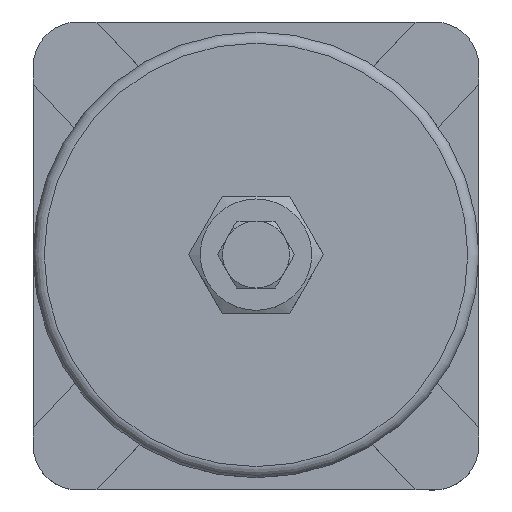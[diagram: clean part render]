
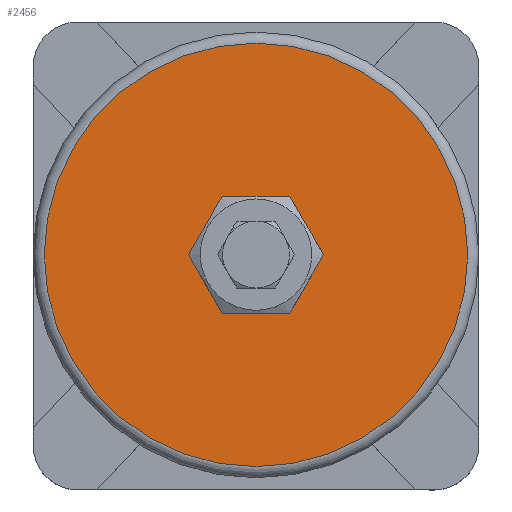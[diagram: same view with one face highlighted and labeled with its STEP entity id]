
A CAD part, top view. The second image highlights one B-rep face of the part: STEP entity #2456.
In plain terms, the highlighted planar face has unit normal (0, 0, 1).
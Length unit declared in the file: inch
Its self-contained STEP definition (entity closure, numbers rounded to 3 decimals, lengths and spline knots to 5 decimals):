
#123=FACE_BOUND('',#449,.T.);
#172=CIRCLE('',#2631,2.3757);
#173=CIRCLE('',#2633,0.38281);
#292=FACE_OUTER_BOUND('',#448,.T.);
#448=EDGE_LOOP('',(#1640));
#449=EDGE_LOOP('',(#1641));
#999=VERTEX_POINT('',#3558);
#1000=VERTEX_POINT('',#3561);
#1248=EDGE_CURVE('',#999,#999,#172,.T.);
#1249=EDGE_CURVE('',#1000,#1000,#173,.T.);
#1640=ORIENTED_EDGE('',*,*,#1248,.T.);
#1641=ORIENTED_EDGE('',*,*,#1249,.F.);
#2208=PLANE('',#2632);
#2456=ADVANCED_FACE('',(#292,#123),#2208,.T.);
#2631=AXIS2_PLACEMENT_3D('',#3559,#2925,#2926);
#2632=AXIS2_PLACEMENT_3D('',#3560,#2927,#2928);
#2633=AXIS2_PLACEMENT_3D('',#3562,#2929,#2930);
#2925=DIRECTION('center_axis',(0.,0.,
1.));
#2926=DIRECTION('ref_axis',(1.,0.,0.));
#2927=DIRECTION('center_axis',(0.,0.,
1.));
#2928=DIRECTION('ref_axis',(1.,0.,0.));
#2929=DIRECTION('center_axis',(0.,0.,
1.));
#2930=DIRECTION('ref_axis',(1.,0.,0.));
#3558=CARTESIAN_POINT('',(2.3757,0.,7.4375));
#3559=CARTESIAN_POINT('Origin',(0.,0.,
7.4375));
#3560=CARTESIAN_POINT('Origin',(1.37925,0.,
7.4375));
#3561=CARTESIAN_POINT('',(0.38281,0.,7.4375));
#3562=CARTESIAN_POINT('Origin',(0.,0.,
7.4375));
